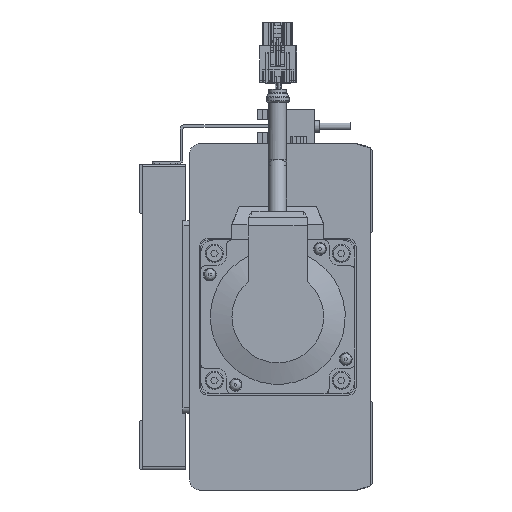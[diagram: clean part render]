
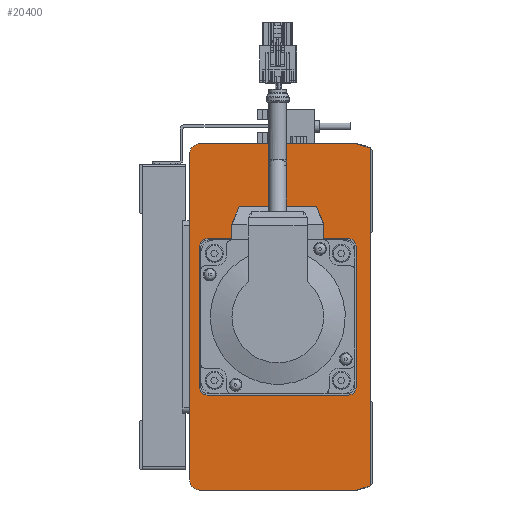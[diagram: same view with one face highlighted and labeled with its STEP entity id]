
A CAD part, left-side view. The second image highlights one B-rep face of the part: STEP entity #20400.
In plain terms, the highlighted planar face has unit normal (-1, 0, 0) as drawn and (0, 0, 1) by its records, which use the part's own axes.
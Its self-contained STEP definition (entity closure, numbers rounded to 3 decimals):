
#954=CIRCLE('',#22151,4.);
#955=CIRCLE('',#22155,3.);
#957=CIRCLE('',#22159,3.);
#959=CIRCLE('',#22163,3.);
#961=CIRCLE('',#22167,3.);
#963=CIRCLE('',#22170,4.);
#5778=ORIENTED_EDGE('',*,*,#9093,.F.);
#5779=ORIENTED_EDGE('',*,*,#9097,.F.);
#5780=ORIENTED_EDGE('',*,*,#9100,.F.);
#5781=ORIENTED_EDGE('',*,*,#9103,.F.);
#5782=ORIENTED_EDGE('',*,*,#9106,.F.);
#5783=ORIENTED_EDGE('',*,*,#9109,.F.);
#5784=ORIENTED_EDGE('',*,*,#9112,.F.);
#5785=ORIENTED_EDGE('',*,*,#9115,.F.);
#5786=ORIENTED_EDGE('',*,*,#9038,.T.);
#5787=ORIENTED_EDGE('',*,*,#9049,.T.);
#5788=ORIENTED_EDGE('',*,*,#9052,.T.);
#5789=ORIENTED_EDGE('',*,*,#9062,.T.);
#5790=ORIENTED_EDGE('',*,*,#9071,.T.);
#5791=ORIENTED_EDGE('',*,*,#9081,.T.);
#5792=ORIENTED_EDGE('',*,*,#9087,.T.);
#5793=ORIENTED_EDGE('',*,*,#9117,.T.);
#9038=EDGE_CURVE('',#11149,#11150,#13274,.T.);
#9049=EDGE_CURVE('',#11150,#11159,#13285,.T.);
#9052=EDGE_CURVE('',#11159,#11161,#13288,.T.);
#9062=EDGE_CURVE('',#11161,#11169,#13298,.T.);
#9071=EDGE_CURVE('',#11169,#11175,#13307,.T.);
#9081=EDGE_CURVE('',#11175,#11183,#954,.T.);
#9087=EDGE_CURVE('',#11183,#11188,#13322,.T.);
#9093=EDGE_CURVE('',#11191,#11192,#13328,.T.);
#9097=EDGE_CURVE('',#11195,#11191,#955,.T.);
#9100=EDGE_CURVE('',#11197,#11195,#13333,.T.);
#9103=EDGE_CURVE('',#11199,#11197,#957,.T.);
#9106=EDGE_CURVE('',#11201,#11199,#13337,.T.);
#9109=EDGE_CURVE('',#11203,#11201,#959,.T.);
#9112=EDGE_CURVE('',#11205,#11203,#13341,.T.);
#9115=EDGE_CURVE('',#11192,#11205,#961,.T.);
#9117=EDGE_CURVE('',#11188,#11149,#963,.T.);
#11149=VERTEX_POINT('',#33313);
#11150=VERTEX_POINT('',#33314);
#11159=VERTEX_POINT('',#33335);
#11161=VERTEX_POINT('',#33341);
#11169=VERTEX_POINT('',#33360);
#11175=VERTEX_POINT('',#33376);
#11183=VERTEX_POINT('',#33395);
#11188=VERTEX_POINT('',#33406);
#11191=VERTEX_POINT('',#33417);
#11192=VERTEX_POINT('',#33418);
#11195=VERTEX_POINT('',#33426);
#11197=VERTEX_POINT('',#33432);
#11199=VERTEX_POINT('',#33438);
#11201=VERTEX_POINT('',#33444);
#11203=VERTEX_POINT('',#33450);
#11205=VERTEX_POINT('',#33456);
#13274=LINE('',#33312,#15383);
#13285=LINE('',#33334,#15394);
#13288=LINE('',#33340,#15397);
#13298=LINE('',#33359,#15407);
#13307=LINE('',#33375,#15416);
#13322=LINE('',#33407,#15431);
#13328=LINE('',#33416,#15437);
#13333=LINE('',#33431,#15442);
#13337=LINE('',#33443,#15446);
#13341=LINE('',#33455,#15450);
#15383=VECTOR('',#27235,1000.);
#15394=VECTOR('',#27248,1000.);
#15397=VECTOR('',#27253,1000.);
#15407=VECTOR('',#27265,1000.);
#15416=VECTOR('',#27276,1000.);
#15431=VECTOR('',#27297,1000.);
#15437=VECTOR('',#27305,1000.);
#15442=VECTOR('',#27318,1000.);
#15446=VECTOR('',#27330,1000.);
#15450=VECTOR('',#27342,1000.);
#16848=EDGE_LOOP('',(#5778,#5779,#5780,#5781,#5782,#5783,#5784,#5785));
#16849=EDGE_LOOP('',(#5786,#5787,#5788,#5789,#5790,#5791,#5792,#5793));
#18343=FACE_BOUND('',#16848,.T.);
#18344=FACE_BOUND('',#16849,.T.);
#19348=PLANE('',#22178);
#20400=ADVANCED_FACE('',(#18343,#18344),#19348,.T.);
#22151=AXIS2_PLACEMENT_3D('',#33394,#27288,#27289);
#22155=AXIS2_PLACEMENT_3D('',#33425,#27311,#27312);
#22159=AXIS2_PLACEMENT_3D('',#33437,#27323,#27324);
#22163=AXIS2_PLACEMENT_3D('',#33449,#27335,#27336);
#22167=AXIS2_PLACEMENT_3D('',#33461,#27347,#27348);
#22170=AXIS2_PLACEMENT_3D('',#33464,#27353,#27354);
#22178=AXIS2_PLACEMENT_3D('',#33484,#27373,#27374);
#27235=DIRECTION('',(0.,-1.,0.));
#27248=DIRECTION('',(0.3,-0.954,0.));
#27253=DIRECTION('',(1.,0.,0.));
#27265=DIRECTION('',(0.3,0.954,0.));
#27276=DIRECTION('',(0.,1.,0.));
#27288=DIRECTION('',(0.,0.,1.));
#27289=DIRECTION('',(1.,0.,0.));
#27297=DIRECTION('',(-1.,0.,0.));
#27305=DIRECTION('',(0.,-1.,0.));
#27311=DIRECTION('',(0.,0.,1.));
#27312=DIRECTION('',(1.,0.,0.));
#27318=DIRECTION('',(-1.,0.,0.));
#27323=DIRECTION('',(0.,0.,1.));
#27324=DIRECTION('',(1.,0.,0.));
#27330=DIRECTION('',(0.,1.,0.));
#27335=DIRECTION('',(0.,0.,1.));
#27336=DIRECTION('',(1.,0.,0.));
#27342=DIRECTION('',(1.,0.,0.));
#27347=DIRECTION('',(0.,0.,1.));
#27348=DIRECTION('',(1.,0.,0.));
#27353=DIRECTION('',(0.,0.,1.));
#27354=DIRECTION('',(1.,0.,0.));
#27373=DIRECTION('',(0.,0.,1.));
#27374=DIRECTION('',(1.,0.,0.));
#33312=CARTESIAN_POINT('',(-67.5,67.4,0.));
#33313=CARTESIAN_POINT('',(-67.5,67.4,0.));
#33314=CARTESIAN_POINT('',(-67.5,6.241,0.));
#33334=CARTESIAN_POINT('',(-67.5,6.241,0.));
#33335=CARTESIAN_POINT('',(-65.854,1.,0.));
#33340=CARTESIAN_POINT('',(-65.854,1.,0.));
#33341=CARTESIAN_POINT('',(65.854,1.,0.));
#33359=CARTESIAN_POINT('',(65.854,1.,0.));
#33360=CARTESIAN_POINT('',(67.5,6.241,0.));
#33375=CARTESIAN_POINT('',(67.5,6.241,0.));
#33376=CARTESIAN_POINT('',(67.5,67.4,0.));
#33394=CARTESIAN_POINT('',(63.5,67.4,0.));
#33395=CARTESIAN_POINT('',(63.5,71.4,0.));
#33406=CARTESIAN_POINT('',(-63.5,71.4,0.));
#33407=CARTESIAN_POINT('',(63.5,71.4,0.));
#33416=CARTESIAN_POINT('',(-30.5,64.5,0.));
#33417=CARTESIAN_POINT('',(-30.5,64.5,0.));
#33418=CARTESIAN_POINT('',(-30.5,9.5,0.));
#33425=CARTESIAN_POINT('',(-27.5,64.5,0.));
#33426=CARTESIAN_POINT('',(-27.5,67.5,0.));
#33431=CARTESIAN_POINT('',(27.5,67.5,0.));
#33432=CARTESIAN_POINT('',(27.5,67.5,0.));
#33437=CARTESIAN_POINT('',(27.5,64.5,0.));
#33438=CARTESIAN_POINT('',(30.5,64.5,0.));
#33443=CARTESIAN_POINT('',(30.5,9.5,0.));
#33444=CARTESIAN_POINT('',(30.5,9.5,0.));
#33449=CARTESIAN_POINT('',(27.5,9.5,0.));
#33450=CARTESIAN_POINT('',(27.5,6.5,0.));
#33455=CARTESIAN_POINT('',(-27.5,6.5,0.));
#33456=CARTESIAN_POINT('',(-27.5,6.5,0.));
#33461=CARTESIAN_POINT('',(-27.5,9.5,0.));
#33464=CARTESIAN_POINT('',(-63.5,67.4,0.));
#33484=CARTESIAN_POINT('',(63.5,67.4,0.));
